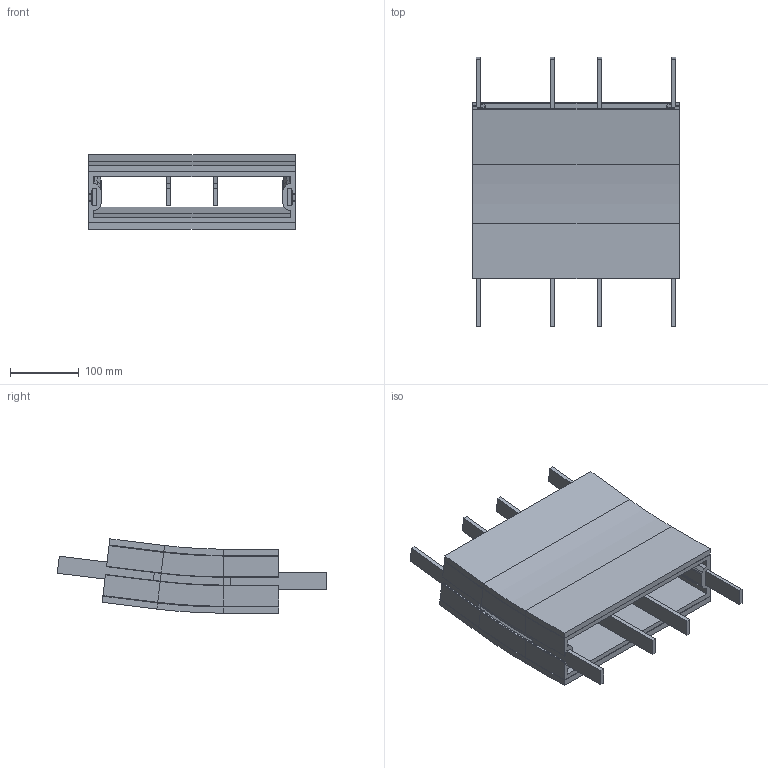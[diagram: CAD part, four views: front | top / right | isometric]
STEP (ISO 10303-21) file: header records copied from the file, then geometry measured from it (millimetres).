
FILE_DESCRIPTION (( 'STEP AP214' ), '1' );
FILE_NAME ('FBBV 7A300R750L80L80.00.step', '2026-05-29T10:33:29', ( '' ), ( '' ), 'SwSTEP 2.0', 'SolidWorks 2024', '' );
FILE_SCHEMA (( 'AUTOMOTIVE_DESIGN' ));
Length unit declared in the file: millimetre
Products named in the file (1): FBBV 7A300R750L80L80.00
Bounding box: 300 x 391.81 x 107.99 mm (x, y, z)
Volume: 2885276.2 mm3; surface area: 792685.6 mm2
Topology: 11 solids, 11 shells, 375 faces, 845 edges, 492 vertices
Faces by surface type: plane 278, cone 66, cylinder 26, torus 5
Entity records: 10191 total; most frequent: DIRECTION 1724, CARTESIAN_POINT 1713, ORIENTED_EDGE 1690, EDGE_CURVE 845, VECTOR 718, LINE 718, AXIS2_PLACEMENT_3D 503, VERTEX_POINT 492
